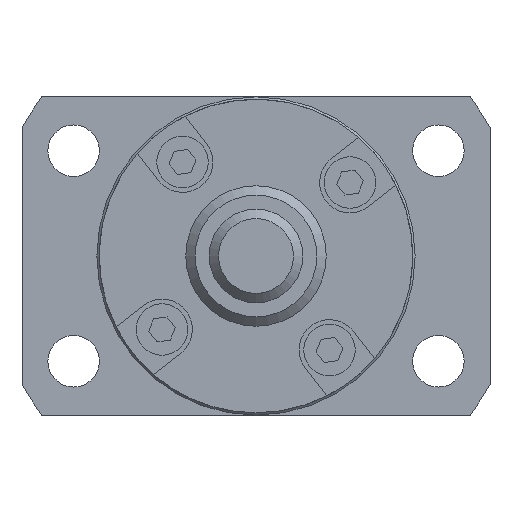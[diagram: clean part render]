
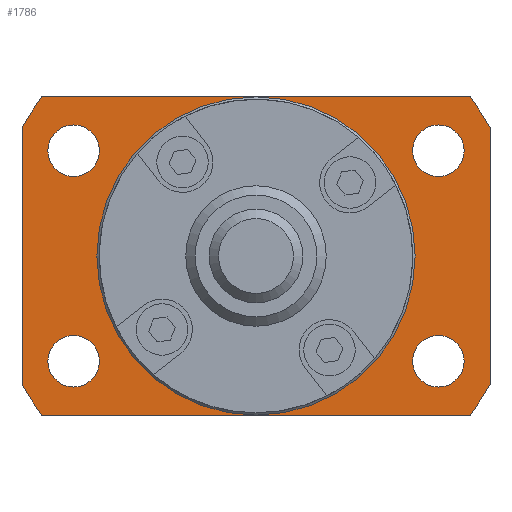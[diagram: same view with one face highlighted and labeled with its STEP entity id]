
A CAD part, left-side view. The second image highlights one B-rep face of the part: STEP entity #1786.
In plain terms, the highlighted planar face has unit normal (-1, 0, 0).
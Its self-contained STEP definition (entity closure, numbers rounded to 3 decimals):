
#110=CIRCLE('',#1969,2.75);
#111=CIRCLE('',#1970,2.75);
#112=CIRCLE('',#1971,2.75);
#113=CIRCLE('',#1972,2.75);
#114=CIRCLE('',#1973,16.75);
#115=CIRCLE('',#1974,28.5);
#116=CIRCLE('',#1975,28.5);
#117=CIRCLE('',#1976,28.5);
#118=CIRCLE('',#1977,28.5);
#280=ORIENTED_EDGE('',*,*,#696,.T.);
#281=ORIENTED_EDGE('',*,*,#697,.T.);
#282=ORIENTED_EDGE('',*,*,#698,.T.);
#283=ORIENTED_EDGE('',*,*,#699,.T.);
#284=ORIENTED_EDGE('',*,*,#700,.T.);
#285=ORIENTED_EDGE('',*,*,#701,.F.);
#286=ORIENTED_EDGE('',*,*,#702,.F.);
#287=ORIENTED_EDGE('',*,*,#703,.F.);
#288=ORIENTED_EDGE('',*,*,#704,.F.);
#289=ORIENTED_EDGE('',*,*,#705,.F.);
#290=ORIENTED_EDGE('',*,*,#706,.F.);
#291=ORIENTED_EDGE('',*,*,#707,.F.);
#292=ORIENTED_EDGE('',*,*,#708,.F.);
#696=EDGE_CURVE('',#916,#916,#110,.T.);
#697=EDGE_CURVE('',#917,#917,#111,.T.);
#698=EDGE_CURVE('',#918,#918,#112,.T.);
#699=EDGE_CURVE('',#919,#919,#113,.T.);
#700=EDGE_CURVE('',#920,#920,#114,.T.);
#701=EDGE_CURVE('',#921,#922,#115,.T.);
#702=EDGE_CURVE('',#923,#921,#1059,.T.);
#703=EDGE_CURVE('',#924,#923,#116,.T.);
#704=EDGE_CURVE('',#925,#924,#1060,.T.);
#705=EDGE_CURVE('',#926,#925,#117,.T.);
#706=EDGE_CURVE('',#927,#926,#1061,.T.);
#707=EDGE_CURVE('',#928,#927,#118,.T.);
#708=EDGE_CURVE('',#922,#928,#1062,.T.);
#916=VERTEX_POINT('',#2865);
#917=VERTEX_POINT('',#2867);
#918=VERTEX_POINT('',#2869);
#919=VERTEX_POINT('',#2871);
#920=VERTEX_POINT('',#2873);
#921=VERTEX_POINT('',#2875);
#922=VERTEX_POINT('',#2876);
#923=VERTEX_POINT('',#2878);
#924=VERTEX_POINT('',#2880);
#925=VERTEX_POINT('',#2882);
#926=VERTEX_POINT('',#2884);
#927=VERTEX_POINT('',#2886);
#928=VERTEX_POINT('',#2888);
#1059=LINE('',#2877,#1193);
#1060=LINE('',#2881,#1194);
#1061=LINE('',#2885,#1195);
#1062=LINE('',#2889,#1196);
#1193=VECTOR('',#2306,1000.);
#1194=VECTOR('',#2309,1000.);
#1195=VECTOR('',#2312,1000.);
#1196=VECTOR('',#2315,1000.);
#1352=EDGE_LOOP('',(#280));
#1353=EDGE_LOOP('',(#281));
#1354=EDGE_LOOP('',(#282));
#1355=EDGE_LOOP('',(#283));
#1356=EDGE_LOOP('',(#284));
#1357=EDGE_LOOP('',(#285,#286,#287,#288,#289,#290,#291,#292));
#1544=FACE_BOUND('',#1352,.T.);
#1545=FACE_BOUND('',#1353,.T.);
#1546=FACE_BOUND('',#1354,.T.);
#1547=FACE_BOUND('',#1355,.T.);
#1548=FACE_BOUND('',#1356,.T.);
#1549=FACE_BOUND('',#1357,.T.);
#1695=PLANE('',#1968);
#1786=ADVANCED_FACE('',(#1544,#1545,#1546,#1547,#1548,#1549),#1695,.F.);
#1968=AXIS2_PLACEMENT_3D('',#2863,#2292,#2293);
#1969=AXIS2_PLACEMENT_3D('',#2864,#2294,#2295);
#1970=AXIS2_PLACEMENT_3D('',#2866,#2296,#2297);
#1971=AXIS2_PLACEMENT_3D('',#2868,#2298,#2299);
#1972=AXIS2_PLACEMENT_3D('',#2870,#2300,#2301);
#1973=AXIS2_PLACEMENT_3D('',#2872,#2302,#2303);
#1974=AXIS2_PLACEMENT_3D('',#2874,#2304,#2305);
#1975=AXIS2_PLACEMENT_3D('',#2879,#2307,#2308);
#1976=AXIS2_PLACEMENT_3D('',#2883,#2310,#2311);
#1977=AXIS2_PLACEMENT_3D('',#2887,#2313,#2314);
#2292=DIRECTION('',(1.,0.,0.));
#2293=DIRECTION('',(0.,0.,-1.));
#2294=DIRECTION('',(1.,0.,0.));
#2295=DIRECTION('',(0.,0.,-1.));
#2296=DIRECTION('',(1.,0.,0.));
#2297=DIRECTION('',(0.,0.,-1.));
#2298=DIRECTION('',(1.,0.,0.));
#2299=DIRECTION('',(0.,0.,-1.));
#2300=DIRECTION('',(1.,0.,0.));
#2301=DIRECTION('',(0.,0.,-1.));
#2302=DIRECTION('',(1.,0.,0.));
#2303=DIRECTION('',(0.,0.,-1.));
#2304=DIRECTION('',(1.,0.,0.));
#2305=DIRECTION('',(0.,0.,-1.));
#2306=DIRECTION('',(0.,-1.,0.));
#2307=DIRECTION('',(1.,0.,0.));
#2308=DIRECTION('',(0.,0.,-1.));
#2309=DIRECTION('',(0.,0.,1.));
#2310=DIRECTION('',(1.,0.,0.));
#2311=DIRECTION('',(0.,0.,-1.));
#2312=DIRECTION('',(0.,1.,0.));
#2313=DIRECTION('',(1.,0.,0.));
#2314=DIRECTION('',(0.,0.,-1.));
#2315=DIRECTION('',(0.,0.,-1.));
#2863=CARTESIAN_POINT('',(21.,16.75,0.));
#2864=CARTESIAN_POINT('',(21.,19.486,-11.25));
#2865=CARTESIAN_POINT('',(21.,19.486,-14.));
#2866=CARTESIAN_POINT('',(21.,-19.486,11.25));
#2867=CARTESIAN_POINT('',(21.,-19.486,8.5));
#2868=CARTESIAN_POINT('',(21.,-19.486,-11.25));
#2869=CARTESIAN_POINT('',(21.,-19.486,-14.));
#2870=CARTESIAN_POINT('',(21.,19.486,11.25));
#2871=CARTESIAN_POINT('',(21.,19.486,8.5));
#2872=CARTESIAN_POINT('',(21.,0.,0.));
#2873=CARTESIAN_POINT('',(21.,0.,-16.75));
#2874=CARTESIAN_POINT('',(21.,0.,0.));
#2875=CARTESIAN_POINT('',(21.,-22.875,17.));
#2876=CARTESIAN_POINT('',(21.,-25.,13.684));
#2877=CARTESIAN_POINT('',(21.,22.875,17.));
#2878=CARTESIAN_POINT('',(21.,22.875,17.));
#2879=CARTESIAN_POINT('',(21.,0.,0.));
#2880=CARTESIAN_POINT('',(21.,25.,13.684));
#2881=CARTESIAN_POINT('',(21.,25.,-13.684));
#2882=CARTESIAN_POINT('',(21.,25.,-13.684));
#2883=CARTESIAN_POINT('',(21.,0.,0.));
#2884=CARTESIAN_POINT('',(21.,22.875,-17.));
#2885=CARTESIAN_POINT('',(21.,-22.875,-17.));
#2886=CARTESIAN_POINT('',(21.,-22.875,-17.));
#2887=CARTESIAN_POINT('',(21.,0.,0.));
#2888=CARTESIAN_POINT('',(21.,-25.,-13.684));
#2889=CARTESIAN_POINT('',(21.,-25.,13.684));
